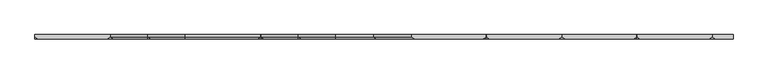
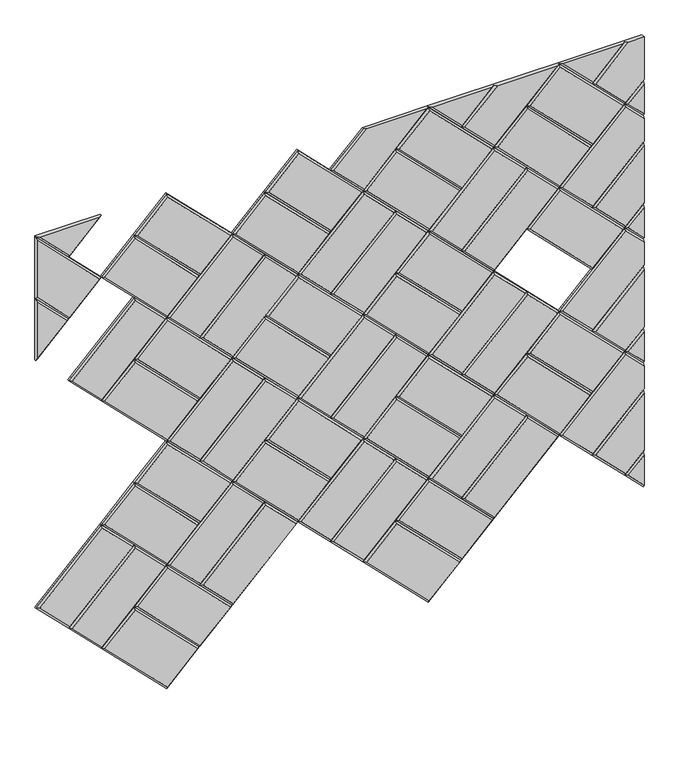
"""IFC4 building model written with IfcOpenShell, lengths in millimetres: proxy geometry, Wall_Wisteria 4.3dm."""

from ifc_helpers import new_model, si_unit, origin, place, context, project, spatial, faceted_brep, source, transform, mapped, element, save


def generic_models_cc67b6d5(model_context):
    return source(origin(), model_context, "Body", "Brep", [
        faceted_brep([(2685.2066058, 12.0, 2368.8913716), (2900.7603792, 12.0, 2584.3898885), (3008.5096376, 12.0, 2476.6130018), (2792.9558642, 12.0, 2261.1144849), (2685.2066058, 6.0, 2368.8913716), (2792.9558642, 6.0, 2261.1144849), (3008.5096376, 6.0, 2476.6130018), (2900.7603792, 6.0, 2584.3898885), (3000.0243563, 0.0, 2476.6140895), (2900.7592914, 0.0, 2575.9046072), (2693.6918871, 0.0, 2368.8902839), (2792.9569519, 0.0, 2269.5997662)], [[[0, 1, 2, 3]], [[4, 0, 3, 5]], [[5, 3, 2, 6]], [[6, 2, 1, 7]], [[7, 1, 0, 4]], [[8, 9, 10, 11]], [[4, 5, 11, 10]], [[5, 6, 8, 11]], [[6, 7, 9, 8]], [[7, 4, 10, 9]]]),
        faceted_brep([(2792.9558642, 12.0, 2261.1144849), (3008.5096376, 12.0, 2476.6130018), (3116.258896, 12.0, 2368.8361151), (2900.7051226, 12.0, 2153.3375982), (2792.9558642, 6.0, 2261.1144849), (2900.7051226, 6.0, 2153.3375982), (3116.258896, 6.0, 2368.8361151), (3008.5096376, 6.0, 2476.6130018), (3107.7736147, 0.0, 2368.8372028), (3008.5085499, 0.0, 2468.1277205), (2801.4411455, 0.0, 2261.1133972), (2900.7062104, 0.0, 2161.8228796)], [[[0, 1, 2, 3]], [[4, 0, 3, 5]], [[5, 3, 2, 6]], [[6, 2, 1, 7]], [[7, 1, 0, 4]], [[8, 9, 10, 11]], [[4, 5, 11, 10]], [[5, 6, 8, 11]], [[6, 7, 9, 8]], [[7, 4, 10, 9]]]),
        faceted_brep([(2792.928252, 12.0, 2045.5888806), (2577.4297351, 12.0, 2261.142654), (2685.2066218, 12.0, 2368.8919124), (2900.7051387, 12.0, 2153.338139), (2792.928252, 6.0, 2045.5888806), (2900.7051387, 6.0, 2153.338139), (2685.2066218, 6.0, 2368.8919124), (2577.4297351, 6.0, 2261.142654), (2685.2055341, 0.0, 2360.4066311), (2585.9150165, 0.0, 2261.1415663), (2792.9293398, 0.0, 2054.0741619), (2892.2198574, 0.0, 2153.3392268)], [[[0, 1, 2, 3]], [[4, 0, 3, 5]], [[5, 3, 2, 6]], [[6, 2, 1, 7]], [[7, 1, 0, 4]], [[8, 9, 10, 11]], [[4, 5, 11, 10]], [[5, 6, 8, 11]], [[6, 7, 9, 8]], [[7, 4, 10, 9]]]),
        faceted_brep([(2685.1513653, 12.0, 1937.8396222), (2469.6528485, 12.0, 2153.3933956), (2577.4297351, 12.0, 2261.142654), (2792.928252, 12.0, 2045.5888806), (2685.1513653, 6.0, 1937.8396222), (2792.928252, 6.0, 2045.5888806), (2577.4297351, 6.0, 2261.142654), (2469.6528485, 6.0, 2153.3933956), (2577.4286474, 0.0, 2252.6573727), (2478.1381298, 0.0, 2153.3923078), (2685.1524531, 0.0, 1946.3249035), (2784.4429707, 0.0, 2045.5899683)], [[[0, 1, 2, 3]], [[4, 0, 3, 5]], [[5, 3, 2, 6]], [[6, 2, 1, 7]], [[7, 1, 0, 4]], [[8, 9, 10, 11]], [[4, 5, 11, 10]], [[5, 6, 8, 11]], [[6, 7, 9, 8]], [[7, 4, 10, 9]]]),
        faceted_brep([(2361.90359, 12.0, 2261.1702822), (2577.4573634, 12.0, 2476.6687991), (2685.2066218, 12.0, 2368.8919124), (2469.6528485, 12.0, 2153.3933956), (2361.90359, 6.0, 2261.1702822), (2469.6528485, 6.0, 2153.3933956), (2685.2066218, 6.0, 2368.8919124), (2577.4573634, 6.0, 2476.6687991), (2676.7213405, 0.0, 2368.8930002), (2577.4562757, 0.0, 2468.1835178), (2370.3888713, 0.0, 2261.1691945), (2469.6539362, 0.0, 2161.8786769)], [[[0, 1, 2, 3]], [[4, 0, 3, 5]], [[5, 3, 2, 6]], [[6, 2, 1, 7]], [[7, 1, 0, 4]], [[8, 9, 10, 11]], [[4, 5, 11, 10]], [[5, 6, 8, 11]], [[6, 7, 9, 8]], [[7, 4, 10, 9]]]),
        faceted_brep([(2792.9835085, 12.0, 2476.6411709), (2577.4849917, 12.0, 2692.1949443), (2685.2618784, 12.0, 2799.9442027), (2900.7603952, 12.0, 2584.3904293), (2792.9835085, 6.0, 2476.6411709), (2900.7603952, 6.0, 2584.3904293), (2685.2618784, 6.0, 2799.9442027), (2577.4849917, 6.0, 2692.1949443), (2685.2607906, 0.0, 2791.4589214), (2585.970273, 0.0, 2692.1938565), (2792.9845963, 0.0, 2485.1264522), (2892.2751139, 0.0, 2584.391517)], [[[0, 1, 2, 3]], [[4, 0, 3, 5]], [[5, 3, 2, 6]], [[6, 2, 1, 7]], [[7, 1, 0, 4]], [[8, 9, 10, 11]], [[4, 5, 11, 10]], [[5, 6, 8, 11]], [[6, 7, 9, 8]], [[7, 4, 10, 9]]]),
        faceted_brep([(2685.2066218, 12.0, 2368.8919124), (2469.708105, 12.0, 2584.4456858), (2577.4849917, 12.0, 2692.1949443), (2792.9835085, 12.0, 2476.6411709), (2685.2066218, 6.0, 2368.8919124), (2792.9835085, 6.0, 2476.6411709), (2577.4849917, 6.0, 2692.1949443), (2469.708105, 6.0, 2584.4456858), (2577.4839039, 0.0, 2683.709663), (2478.1933863, 0.0, 2584.4445981), (2685.2077096, 0.0, 2377.3771937), (2784.4982272, 0.0, 2476.6422586)], [[[0, 1, 2, 3]], [[4, 0, 3, 5]], [[5, 3, 2, 6]], [[6, 2, 1, 7]], [[7, 1, 0, 4]], [[8, 9, 10, 11]], [[4, 5, 11, 10]], [[5, 6, 8, 11]], [[6, 7, 9, 8]], [[7, 4, 10, 9]]]),
        faceted_brep([(3547.3111702, 12.0, 2368.7803178), (3762.8649436, 12.0, 2584.2788347), (3870.6142021, 12.0, 2476.501948), (3655.0604287, 12.0, 2261.0034311), (3547.3111702, 6.0, 2368.7803178), (3655.0604287, 6.0, 2261.0034311), (3870.6142021, 6.0, 2476.501948), (3762.8649436, 6.0, 2584.2788347), (3862.1289208, 0.0, 2476.5030357), (3762.8638559, 0.0, 2575.7935534), (3555.7964515, 0.0, 2368.7792301), (3655.0615164, 0.0, 2269.4887124)], [[[0, 1, 2, 3]], [[4, 0, 3, 5]], [[5, 3, 2, 6]], [[6, 2, 1, 7]], [[7, 1, 0, 4]], [[8, 9, 10, 11]], [[4, 5, 11, 10]], [[5, 6, 8, 11]], [[6, 7, 9, 8]], [[7, 4, 10, 9]]]),
        faceted_brep([(3655.0604287, 12.0, 2261.0034311), (3870.6142021, 12.0, 2476.501948), (3978.3634605, 12.0, 2368.7250613), (3762.8096871, 12.0, 2153.2265444), (3655.0604287, 6.0, 2261.0034311), (3762.8096871, 6.0, 2153.2265444), (3978.3634605, 6.0, 2368.7250613), (3870.6142021, 6.0, 2476.501948), (3969.8781792, 0.0, 2368.726149), (3870.6131143, 0.0, 2468.0166667), (3663.54571, 0.0, 2261.0023434), (3762.8107748, 0.0, 2161.7118257)], [[[0, 1, 2, 3]], [[4, 0, 3, 5]], [[5, 3, 2, 6]], [[6, 2, 1, 7]], [[7, 1, 0, 4]], [[8, 9, 10, 11]], [[4, 5, 11, 10]], [[5, 6, 8, 11]], [[6, 7, 9, 8]], [[7, 4, 10, 9]]]),
        faceted_brep([(3655.0328165, 12.0, 2045.4778268), (3439.5342996, 12.0, 2261.0316002), (3547.3111863, 12.0, 2368.7808586), (3762.8097032, 12.0, 2153.2270852), (3655.0328165, 6.0, 2045.4778268), (3762.8097032, 6.0, 2153.2270852), (3547.3111863, 6.0, 2368.7808586), (3439.5342996, 6.0, 2261.0316002), (3547.3100986, 0.0, 2360.2955773), (3448.0195809, 0.0, 2261.0305124), (3655.0339042, 0.0, 2053.9631081), (3754.3244219, 0.0, 2153.2281729)], [[[0, 1, 2, 3]], [[4, 0, 3, 5]], [[5, 3, 2, 6]], [[6, 2, 1, 7]], [[7, 1, 0, 4]], [[8, 9, 10, 11]], [[4, 5, 11, 10]], [[5, 6, 8, 11]], [[6, 7, 9, 8]], [[7, 4, 10, 9]]]),
        faceted_brep([(3547.2559298, 12.0, 1937.7285683), (3331.7574129, 12.0, 2153.2823417), (3439.5342996, 12.0, 2261.0316002), (3655.0328165, 12.0, 2045.4778268), (3547.2559298, 6.0, 1937.7285683), (3655.0328165, 6.0, 2045.4778268), (3439.5342996, 6.0, 2261.0316002), (3331.7574129, 6.0, 2153.2823417), (3439.5332119, 0.0, 2252.5463189), (3340.2426942, 0.0, 2153.281254), (3547.2570175, 0.0, 1946.2138496), (3646.5475352, 0.0, 2045.4789145)], [[[0, 1, 2, 3]], [[4, 0, 3, 5]], [[5, 3, 2, 6]], [[6, 2, 1, 7]], [[7, 1, 0, 4]], [[8, 9, 10, 11]], [[4, 5, 11, 10]], [[5, 6, 8, 11]], [[6, 7, 9, 8]], [[7, 4, 10, 9]]]),
        faceted_brep([(3116.258896, 12.0, 2368.8361151), (3331.8126694, 12.0, 2584.334632), (3439.5619279, 12.0, 2476.5577453), (3224.0081545, 12.0, 2261.0592284), (3116.258896, 6.0, 2368.8361151), (3224.0081545, 6.0, 2261.0592284), (3439.5619279, 6.0, 2476.5577453), (3331.8126694, 6.0, 2584.334632), (3431.0766466, 0.0, 2476.558833), (3331.8115817, 0.0, 2575.8493507), (3124.7441773, 0.0, 2368.8350274), (3224.0092422, 0.0, 2269.5445097)], [[[0, 1, 2, 3]], [[4, 0, 3, 5]], [[5, 3, 2, 6]], [[6, 2, 1, 7]], [[7, 1, 0, 4]], [[8, 9, 10, 11]], [[4, 5, 11, 10]], [[5, 6, 8, 11]], [[6, 7, 9, 8]], [[7, 4, 10, 9]]]),
        faceted_brep([(3224.0081545, 12.0, 2261.0592284), (3439.5619279, 12.0, 2476.5577453), (3547.3111863, 12.0, 2368.7808586), (3331.7574129, 12.0, 2153.2823417), (3224.0081545, 6.0, 2261.0592284), (3331.7574129, 6.0, 2153.2823417), (3547.3111863, 6.0, 2368.7808586), (3439.5619279, 6.0, 2476.5577453), (3538.825905, 0.0, 2368.7819463), (3439.5608401, 0.0, 2468.072464), (3232.4934358, 0.0, 2261.0581407), (3331.7585006, 0.0, 2161.767623)], [[[0, 1, 2, 3]], [[4, 0, 3, 5]], [[5, 3, 2, 6]], [[6, 2, 1, 7]], [[7, 1, 0, 4]], [[8, 9, 10, 11]], [[4, 5, 11, 10]], [[5, 6, 8, 11]], [[6, 7, 9, 8]], [[7, 4, 10, 9]]]),
        faceted_brep([(3655.088073, 12.0, 2476.530117), (3439.5895561, 12.0, 2692.0838904), (3547.3664428, 12.0, 2799.8331489), (3762.8649597, 12.0, 2584.2793755), (3655.088073, 6.0, 2476.530117), (3762.8649597, 6.0, 2584.2793755), (3547.3664428, 6.0, 2799.8331489), (3439.5895561, 6.0, 2692.0838904), (3547.3653551, 0.0, 2791.3478676), (3448.0748374, 0.0, 2692.0828027), (3655.0891607, 0.0, 2485.0153983), (3754.3796784, 0.0, 2584.2804632)], [[[0, 1, 2, 3]], [[4, 0, 3, 5]], [[5, 3, 2, 6]], [[6, 2, 1, 7]], [[7, 1, 0, 4]], [[8, 9, 10, 11]], [[4, 5, 11, 10]], [[5, 6, 8, 11]], [[6, 7, 9, 8]], [[7, 4, 10, 9]]]),
        faceted_brep([(3547.3111863, 12.0, 2368.7808586), (3331.8126694, 12.0, 2584.334632), (3439.5895561, 12.0, 2692.0838904), (3655.088073, 12.0, 2476.530117), (3547.3111863, 6.0, 2368.7808586), (3655.088073, 6.0, 2476.530117), (3439.5895561, 6.0, 2692.0838904), (3331.8126694, 6.0, 2584.334632), (3439.5884684, 0.0, 2683.5986091), (3340.2979507, 0.0, 2584.3335443), (3547.312274, 0.0, 2377.2661399), (3646.6027917, 0.0, 2476.5312048)], [[[0, 1, 2, 3]], [[4, 0, 3, 5]], [[5, 3, 2, 6]], [[6, 2, 1, 7]], [[7, 1, 0, 4]], [[8, 9, 10, 11]], [[4, 5, 11, 10]], [[5, 6, 8, 11]], [[6, 7, 9, 8]], [[7, 4, 10, 9]]]),
        faceted_brep([(4254.2096042, 12.0, 2092.8081872), (4193.8619774, 12.0, 2153.1712879), (4254.2096042, 12.0, 2213.5034448), (4254.2096042, 6.0, 2213.5034448), (4193.8619774, 6.0, 2153.1712879), (4254.2096042, 6.0, 2092.8081872), (4254.2096042, 0.0, 2101.2945565), (4254.2096042, 0.0, 2205.0192509), (4202.3472587, 0.0, 2153.1702002)], [[[0, 1, 2]], [[3, 2, 1, 4]], [[0, 5, 4, 1]], [[6, 7, 8]], [[7, 3, 4, 8]], [[5, 6, 8, 4]], [[0, 2, 3, 7, 6, 5]]]),
        faceted_brep([(4254.2096042, 12.0, 2429.0019687), (4086.1127189, 12.0, 2260.9481746), (3978.3634605, 12.0, 2368.7250613), (4193.9172339, 12.0, 2584.2235782), (4254.2096042, 12.0, 2523.9157482), (3978.3634605, 6.0, 2368.7250613), (4086.1127189, 6.0, 2260.9481746), (4254.2096042, 6.0, 2429.0019687), (4254.2096042, 6.0, 2523.9157482), (4193.9172339, 6.0, 2584.2235782), (4254.2096042, 0.0, 2437.4861626), (4254.2096042, 0.0, 2515.4293789), (4193.9161462, 0.0, 2575.7382969), (3986.8487418, 0.0, 2368.7239736), (4086.1138067, 0.0, 2269.4334559)], [[[0, 1, 2, 3, 4]], [[5, 2, 1, 6]], [[0, 7, 6, 1]], [[8, 4, 3, 9]], [[9, 3, 2, 5]], [[10, 11, 12, 13, 14]], [[5, 6, 14, 13]], [[7, 10, 14, 6]], [[11, 8, 9, 12]], [[9, 5, 13, 12]], [[0, 4, 8, 11, 10, 7]]]),
        faceted_brep([(4254.2096042, 12.0, 2213.5034448), (4193.8619774, 12.0, 2153.1712879), (4086.1127189, 12.0, 2260.9481746), (4254.2096042, 12.0, 2429.0019687), (4086.1127189, 6.0, 2260.9481746), (4193.8619774, 6.0, 2153.1712879), (4254.2096042, 6.0, 2213.5034448), (4254.2096042, 6.0, 2429.0019687), (4254.2096042, 0.0, 2221.9876386), (4254.2096042, 0.0, 2420.5177749), (4094.5980002, 0.0, 2260.9470869), (4193.8630651, 0.0, 2161.6565692)], [[[0, 1, 2, 3]], [[4, 2, 1, 5]], [[0, 6, 5, 1]], [[7, 3, 2, 4]], [[8, 9, 10, 11]], [[4, 5, 11, 10]], [[6, 8, 11, 5]], [[9, 7, 4, 10]], [[0, 3, 7, 9, 8, 6]]]),
        faceted_brep([(4254.2096042, 12.0, 2523.9157482), (4193.9172339, 12.0, 2584.2235782), (4254.2096042, 12.0, 2644.5004927), (4254.2096042, 6.0, 2644.5004927), (4193.9172339, 6.0, 2584.2235782), (4254.2096042, 6.0, 2523.9157482), (4254.2096042, 0.0, 2532.4021175), (4254.2096042, 0.0, 2636.0162988), (4202.4025152, 0.0, 2584.2224904)], [[[0, 1, 2]], [[3, 2, 1, 4]], [[0, 5, 4, 1]], [[6, 7, 8]], [[7, 3, 4, 8]], [[5, 6, 8, 4]], [[0, 2, 3, 7, 6, 5]]]),
        faceted_brep([(3224.063411, 6.0, 2692.1115187), (3224.063411, 12.0, 2692.1115187), (3331.8126694, 12.0, 2584.334632), (3331.8126694, 6.0, 2584.334632), (3547.3664428, 12.0, 2799.8331489), (3547.3664428, 6.0, 2799.8331489), (3331.8137572, 0.0, 2592.8199133), (3232.5486923, 0.0, 2692.110431), (3538.8811615, 0.0, 2799.8342366), (3331.9795563, 12.0, 2800.0), (3547.1996345, 12.0, 2800.0), (3547.1996345, 6.0, 2800.0), (3331.9795563, 6.0, 2800.0), (3340.4659256, 0.0, 2800.0), (3538.7154406, 0.0, 2800.0)], [[[0, 1, 2, 3]], [[3, 2, 4, 5]], [[0, 3, 6, 7]], [[3, 5, 8, 6]], [[9, 10, 4, 2, 1]], [[11, 5, 4, 10]], [[9, 1, 0, 12]], [[13, 7, 6, 8, 14]], [[14, 8, 5, 11]], [[12, 0, 7, 13]], [[9, 12, 13, 14, 11, 10]]]),
        faceted_brep([(3224.0357988, 12.0, 2476.5859143), (3008.5372819, 12.0, 2692.1396877), (3116.3141686, 12.0, 2799.8889462), (3331.8126855, 12.0, 2584.3351728), (3224.0357988, 6.0, 2476.5859143), (3331.8126855, 6.0, 2584.3351728), (3116.3141686, 6.0, 2799.8889462), (3008.5372819, 6.0, 2692.1396877), (3116.3130809, 0.0, 2791.4036649), (3017.0225632, 0.0, 2692.1386), (3224.0368865, 0.0, 2485.0711957), (3323.3274042, 0.0, 2584.3362605)], [[[0, 1, 2, 3]], [[4, 0, 3, 5]], [[5, 3, 2, 6]], [[6, 2, 1, 7]], [[7, 1, 0, 4]], [[8, 9, 10, 11]], [[4, 5, 11, 10]], [[5, 6, 8, 11]], [[6, 7, 9, 8]], [[7, 4, 10, 9]]]),
        faceted_brep([(3116.2589121, 12.0, 2368.8366559), (2900.7603952, 12.0, 2584.3904293), (3008.5372819, 12.0, 2692.1396877), (3224.0357988, 12.0, 2476.5859143), (3116.2589121, 6.0, 2368.8366559), (3224.0357988, 6.0, 2476.5859143), (3008.5372819, 6.0, 2692.1396877), (2900.7603952, 6.0, 2584.3904293), (3008.5361942, 0.0, 2683.6544064), (2909.2456765, 0.0, 2584.3893416), (3116.2599998, 0.0, 2377.3219372), (3215.5505175, 0.0, 2476.5870021)], [[[0, 1, 2, 3]], [[4, 0, 3, 5]], [[5, 3, 2, 6]], [[6, 2, 1, 7]], [[7, 1, 0, 4]], [[8, 9, 10, 11]], [[4, 5, 11, 10]], [[5, 6, 8, 11]], [[6, 7, 9, 8]], [[7, 4, 10, 9]]]),
        faceted_brep([(3978.418717, 6.0, 2799.7773516), (3978.418717, 12.0, 2799.7773516), (4086.1679755, 12.0, 2692.0004649), (4086.1679755, 6.0, 2692.0004649), (4086.1690632, 0.0, 2700.4857462), (3986.9039983, 0.0, 2799.7762638), (3978.6414225, 12.0, 2800.0), (4194.195203, 12.0, 2800.0), (4194.195203, 6.0, 2800.0), (3978.6414225, 6.0, 2800.0), (3987.1277919, 0.0, 2800.0), (4185.7088337, 0.0, 2800.0)], [[[0, 1, 2, 3]], [[0, 3, 4, 5]], [[6, 7, 2, 1]], [[8, 3, 2, 7]], [[6, 1, 0, 9]], [[10, 5, 4, 11]], [[11, 4, 3, 8]], [[9, 0, 5, 10]], [[6, 9, 10, 11, 8, 7]]]),
        faceted_brep([(4254.2096042, 12.0, 2644.5004927), (4193.9172339, 12.0, 2584.2235782), (4086.1679755, 12.0, 2692.0004649), (4194.195203, 12.0, 2800.0), (4254.2096042, 12.0, 2800.0), (4086.1679755, 6.0, 2692.0004649), (4193.9172339, 6.0, 2584.2235782), (4254.2096042, 6.0, 2644.5004927), (4193.9183216, 0.0, 2592.7088595), (4094.6532568, 0.0, 2691.9993771), (4254.2096042, 0.0, 2652.9846865), (4202.6815723, 0.0, 2800.0), (4254.2096042, 0.0, 2800.0), (4194.195203, 6.0, 2800.0)], [[[0, 1, 2, 3, 4]], [[5, 2, 1, 6]], [[0, 7, 6, 1]], [[5, 6, 8, 9]], [[7, 10, 8, 6]], [[11, 12, 4, 3, 13]], [[3, 2, 5, 13]], [[11, 9, 8, 10, 12]], [[13, 5, 9, 11]], [[0, 4, 12, 10, 7]]]),
        faceted_brep([(4086.1403633, 12.0, 2476.4748605), (3870.6418464, 12.0, 2692.0286339), (3978.4187331, 12.0, 2799.7778924), (4193.91725, 12.0, 2584.224119), (4086.1403633, 6.0, 2476.4748605), (4193.91725, 6.0, 2584.224119), (3978.4187331, 6.0, 2799.7778924), (3870.6418464, 6.0, 2692.0286339), (3978.4176454, 0.0, 2791.2926111), (3879.1271277, 0.0, 2692.0275462), (4086.141451, 0.0, 2484.9601418), (4185.4319687, 0.0, 2584.2252067)], [[[0, 1, 2, 3]], [[4, 0, 3, 5]], [[5, 3, 2, 6]], [[6, 2, 1, 7]], [[7, 1, 0, 4]], [[8, 9, 10, 11]], [[4, 5, 11, 10]], [[5, 6, 8, 11]], [[6, 7, 9, 8]], [[7, 4, 10, 9]]]),
        faceted_brep([(3978.3634766, 12.0, 2368.7256021), (3762.8649597, 12.0, 2584.2793755), (3870.6418464, 12.0, 2692.0286339), (4086.1403633, 12.0, 2476.4748605), (3978.3634766, 6.0, 2368.7256021), (4086.1403633, 6.0, 2476.4748605), (3870.6418464, 6.0, 2692.0286339), (3762.8649597, 6.0, 2584.2793755), (3870.6407587, 0.0, 2683.5433526), (3771.350241, 0.0, 2584.2782878), (3978.3645643, 0.0, 2377.2108834), (4077.655082, 0.0, 2476.4759483)], [[[0, 1, 2, 3]], [[4, 0, 3, 5]], [[5, 3, 2, 6]], [[6, 2, 1, 7]], [[7, 1, 0, 4]], [[8, 9, 10, 11]], [[4, 5, 11, 10]], [[5, 6, 8, 11]], [[6, 7, 9, 8]], [[7, 4, 10, 9]]]),
        faceted_brep([(3547.3664428, 6.0, 2799.8331489), (3547.3664428, 12.0, 2799.8331489), (3655.1157013, 12.0, 2692.0562622), (3655.1157013, 6.0, 2692.0562622), (3655.116789, 0.0, 2700.5415435), (3555.8517241, 0.0, 2799.8320611), (3547.5333367, 12.0, 2800.0), (3763.0871172, 12.0, 2800.0), (3763.0871172, 6.0, 2800.0), (3547.5333367, 6.0, 2800.0), (3556.019706, 0.0, 2800.0), (3754.6007479, 0.0, 2800.0)], [[[0, 1, 2, 3]], [[0, 3, 4, 5]], [[6, 7, 2, 1]], [[8, 3, 2, 7]], [[6, 1, 0, 9]], [[10, 5, 4, 11]], [[11, 4, 3, 8]], [[9, 0, 5, 10]], [[6, 9, 10, 11, 8, 7]]]),
        faceted_brep([(3655.1157013, 6.0, 2692.0562622), (3655.1157013, 12.0, 2692.0562622), (3762.8649597, 12.0, 2584.2793755), (3762.8649597, 6.0, 2584.2793755), (3978.4187331, 12.0, 2799.7778924), (3978.4187331, 6.0, 2799.7778924), (3762.8660474, 0.0, 2592.7646568), (3663.6009826, 0.0, 2692.0551745), (3969.9334518, 0.0, 2799.7789801), (3763.0871172, 12.0, 2800.0), (3978.1966824, 12.0, 2800.0), (3978.1966824, 6.0, 2800.0), (3763.0871172, 6.0, 2800.0), (3771.5734865, 0.0, 2800.0), (3969.7124885, 0.0, 2800.0)], [[[0, 1, 2, 3]], [[3, 2, 4, 5]], [[0, 3, 6, 7]], [[3, 5, 8, 6]], [[9, 10, 4, 2, 1]], [[11, 5, 4, 10]], [[9, 1, 0, 12]], [[13, 7, 6, 8, 14]], [[14, 8, 5, 11]], [[12, 0, 7, 13]], [[9, 12, 13, 14, 11, 10]]]),
        faceted_brep([(2254.2090474, 6.0, 2800.0), (2254.2090474, 12.0, 2800.0), (2361.9588465, 12.0, 2692.2225725), (2361.9588465, 6.0, 2692.2225725), (2361.9599343, 0.0, 2700.7078538), (2262.6932465, 0.0, 2799.9999948), (2469.7639095, 12.0, 2800.0), (2469.7639095, 6.0, 2800.0), (2461.2775402, 0.0, 2800.0)], [[[0, 1, 2, 3]], [[0, 3, 4, 5]], [[1, 6, 2]], [[7, 3, 2, 6]], [[5, 4, 8]], [[8, 4, 3, 7]], [[1, 0, 5, 8, 7, 6]]]),
        faceted_brep([(2254.2096042, 12.0, 2800.0), (2469.708121, 12.0, 2584.4462266), (2361.9312343, 12.0, 2476.6969682), (2254.2096042, 12.0, 2584.4462195), (2361.9312343, 6.0, 2476.6969682), (2469.708121, 6.0, 2584.4462266), (2254.2096042, 6.0, 2800.0), (2254.2096042, 6.0, 2584.4462195), (2254.2096042, 0.0, 2791.5136362), (2254.2096042, 0.0, 2592.9325888), (2361.9323221, 0.0, 2485.1822495), (2461.2228397, 0.0, 2584.4473143)], [[[0, 1, 2, 3]], [[4, 2, 1, 5]], [[5, 1, 0, 6]], [[7, 3, 2, 4]], [[8, 9, 10, 11]], [[4, 5, 11, 10]], [[5, 6, 8, 11]], [[9, 7, 4, 10]], [[0, 3, 7, 9, 8, 6]]]),
        faceted_brep([(2254.2096042, 12.0, 2584.4462195), (2361.9312343, 12.0, 2476.6969682), (2254.2096042, 12.0, 2369.0029521), (2254.2096042, 6.0, 2369.0029521), (2361.9312343, 6.0, 2476.6969682), (2254.2096042, 6.0, 2584.4462195), (2254.2096042, 0.0, 2575.9598502), (2254.2096042, 0.0, 2377.4871459), (2353.445953, 0.0, 2476.6980559)], [[[0, 1, 2]], [[3, 2, 1, 4]], [[0, 5, 4, 1]], [[6, 7, 8]], [[7, 3, 4, 8]], [[5, 6, 8, 4]], [[0, 2, 3, 7, 6, 5]]]),
        faceted_brep([(2685.0960927, 12.0, 1506.7867911), (2900.6498661, 12.0, 1722.285308), (3008.3991246, 12.0, 1614.5084213), (2792.8453512, 12.0, 1399.0099044), (2685.0960927, 6.0, 1506.7867911), (2792.8453512, 6.0, 1399.0099044), (3008.3991246, 6.0, 1614.5084213), (2900.6498661, 6.0, 1722.285308), (2999.9138433, 0.0, 1614.509509), (2900.6487784, 0.0, 1713.8000267), (2693.581374, 0.0, 1506.7857034), (2792.8464389, 0.0, 1407.4951857)], [[[0, 1, 2, 3]], [[4, 0, 3, 5]], [[5, 3, 2, 6]], [[6, 2, 1, 7]], [[7, 1, 0, 4]], [[8, 9, 10, 11]], [[4, 5, 11, 10]], [[5, 6, 8, 11]], [[6, 7, 9, 8]], [[7, 4, 10, 9]]]),
        faceted_brep([(2792.8453512, 12.0, 1399.0099044), (3008.3991246, 12.0, 1614.5084213), (3116.148383, 12.0, 1506.7315346), (2900.5946096, 12.0, 1291.2330177), (2792.8453512, 6.0, 1399.0099044), (2900.5946096, 6.0, 1291.2330177), (3116.148383, 6.0, 1506.7315346), (3008.3991246, 6.0, 1614.5084213), (3107.6631017, 0.0, 1506.7326223), (3008.3980368, 0.0, 1606.02314), (2801.3306325, 0.0, 1399.0088167), (2900.5956973, 0.0, 1299.718299)], [[[0, 1, 2, 3]], [[4, 0, 3, 5]], [[5, 3, 2, 6]], [[6, 2, 1, 7]], [[7, 1, 0, 4]], [[8, 9, 10, 11]], [[4, 5, 11, 10]], [[5, 6, 8, 11]], [[6, 7, 9, 8]], [[7, 4, 10, 9]]]),
        faceted_brep([(2792.817739, 12.0, 1183.4843001), (2577.3192221, 12.0, 1399.0380734), (2685.0961088, 12.0, 1506.7873319), (2900.5946257, 12.0, 1291.2335585), (2792.817739, 6.0, 1183.4843001), (2900.5946257, 6.0, 1291.2335585), (2685.0961088, 6.0, 1506.7873319), (2577.3192221, 6.0, 1399.0380734), (2685.0950211, 0.0, 1498.3020506), (2585.8045034, 0.0, 1399.0369857), (2792.8188267, 0.0, 1191.9695814), (2892.1093444, 0.0, 1291.2346462)], [[[0, 1, 2, 3]], [[4, 0, 3, 5]], [[5, 3, 2, 6]], [[6, 2, 1, 7]], [[7, 1, 0, 4]], [[8, 9, 10, 11]], [[4, 5, 11, 10]], [[5, 6, 8, 11]], [[6, 7, 9, 8]], [[7, 4, 10, 9]]]),
        faceted_brep([(2685.0408523, 12.0, 1075.7350416), (2469.5423354, 12.0, 1291.288815), (2577.3192221, 12.0, 1399.0380734), (2792.817739, 12.0, 1183.4843001), (2685.0408523, 6.0, 1075.7350416), (2792.817739, 6.0, 1183.4843001), (2577.3192221, 6.0, 1399.0380734), (2469.5423354, 6.0, 1291.288815), (2577.3181344, 0.0, 1390.5527921), (2478.0276167, 0.0, 1291.2877273), (2685.04194, 0.0, 1084.2203229), (2784.3324577, 0.0, 1183.4853878)], [[[0, 1, 2, 3]], [[4, 0, 3, 5]], [[5, 3, 2, 6]], [[6, 2, 1, 7]], [[7, 1, 0, 4]], [[8, 9, 10, 11]], [[4, 5, 11, 10]], [[5, 6, 8, 11]], [[6, 7, 9, 8]], [[7, 4, 10, 9]]]),
        faceted_brep([(2254.2096042, 12.0, 1507.0083315), (2469.5975919, 12.0, 1722.3411053), (2577.3468504, 12.0, 1614.5642186), (2361.793077, 12.0, 1399.0657017), (2254.2096042, 12.0, 1506.6767603), (2254.2096042, 6.0, 1506.6767603), (2361.793077, 6.0, 1399.0657017), (2577.3468504, 6.0, 1614.5642186), (2469.5975919, 6.0, 1722.3411053), (2254.2096042, 6.0, 1507.0083315), (2568.8615691, 0.0, 1614.5653063), (2469.5965042, 0.0, 1713.855824), (2262.5290998, 0.0, 1506.8415007), (2361.7941647, 0.0, 1407.550983), (2254.2096042, 5.8827719, 1506.8425672)], [[[0, 1, 2, 3, 4]], [[5, 4, 3, 6]], [[6, 3, 2, 7]], [[7, 2, 1, 8]], [[0, 9, 8, 1]], [[10, 11, 12, 13]], [[14, 5, 6, 13, 12]], [[6, 7, 10, 13]], [[7, 8, 11, 10]], [[9, 14, 12, 11, 8]], [[0, 4, 5, 14, 9]]]),
        faceted_brep([(2361.793077, 12.0, 1399.0657017), (2577.3468504, 12.0, 1614.5642186), (2685.0961088, 12.0, 1506.7873319), (2469.5423354, 12.0, 1291.288815), (2361.793077, 6.0, 1399.0657017), (2469.5423354, 6.0, 1291.288815), (2685.0961088, 6.0, 1506.7873319), (2577.3468504, 6.0, 1614.5642186), (2676.6108275, 0.0, 1506.7884196), (2577.3457626, 0.0, 1606.0789373), (2370.2783583, 0.0, 1399.064614), (2469.5434231, 0.0, 1299.7740963)], [[[0, 1, 2, 3]], [[4, 0, 3, 5]], [[5, 3, 2, 6]], [[6, 2, 1, 7]], [[7, 1, 0, 4]], [[8, 9, 10, 11]], [[4, 5, 11, 10]], [[5, 6, 8, 11]], [[6, 7, 9, 8]], [[7, 4, 10, 9]]]),
        faceted_brep([(2792.8729955, 12.0, 1614.5365903), (2577.3744786, 12.0, 1830.0903637), (2685.1513653, 12.0, 1937.8396222), (2900.6498822, 12.0, 1722.2858488), (2792.8729955, 6.0, 1614.5365903), (2900.6498822, 6.0, 1722.2858488), (2685.1513653, 6.0, 1937.8396222), (2577.3744786, 6.0, 1830.0903637), (2685.1502776, 0.0, 1929.3543409), (2585.8597599, 0.0, 1830.089276), (2792.8740832, 0.0, 1623.0218716), (2892.1646009, 0.0, 1722.2869365)], [[[0, 1, 2, 3]], [[4, 0, 3, 5]], [[5, 3, 2, 6]], [[6, 2, 1, 7]], [[7, 1, 0, 4]], [[8, 9, 10, 11]], [[4, 5, 11, 10]], [[5, 6, 8, 11]], [[6, 7, 9, 8]], [[7, 4, 10, 9]]]),
        faceted_brep([(2685.0961088, 12.0, 1506.7873319), (2469.5975919, 12.0, 1722.3411053), (2577.3744786, 12.0, 1830.0903637), (2792.8729955, 12.0, 1614.5365903), (2685.0961088, 6.0, 1506.7873319), (2792.8729955, 6.0, 1614.5365903), (2577.3744786, 6.0, 1830.0903637), (2469.5975919, 6.0, 1722.3411053), (2577.3733909, 0.0, 1821.6050824), (2478.0828732, 0.0, 1722.3400176), (2685.0971965, 0.0, 1515.2726132), (2784.3877142, 0.0, 1614.5376781)], [[[0, 1, 2, 3]], [[4, 0, 3, 5]], [[5, 3, 2, 6]], [[6, 2, 1, 7]], [[7, 1, 0, 4]], [[8, 9, 10, 11]], [[4, 5, 11, 10]], [[5, 6, 8, 11]], [[6, 7, 9, 8]], [[7, 4, 10, 9]]]),
        faceted_brep([(3547.2006572, 12.0, 1506.6757373), (3762.7544306, 12.0, 1722.1742542), (3870.503689, 12.0, 1614.3973675), (3654.9499156, 12.0, 1398.8988506), (3547.2006572, 6.0, 1506.6757373), (3654.9499156, 6.0, 1398.8988506), (3870.503689, 6.0, 1614.3973675), (3762.7544306, 6.0, 1722.1742542), (3862.0184077, 0.0, 1614.3984552), (3762.7533429, 0.0, 1713.6889728), (3555.6859385, 0.0, 1506.6746496), (3654.9510034, 0.0, 1407.3841319)], [[[0, 1, 2, 3]], [[4, 0, 3, 5]], [[5, 3, 2, 6]], [[6, 2, 1, 7]], [[7, 1, 0, 4]], [[8, 9, 10, 11]], [[4, 5, 11, 10]], [[5, 6, 8, 11]], [[6, 7, 9, 8]], [[7, 4, 10, 9]]]),
        faceted_brep([(3654.9499156, 12.0, 1398.8988506), (3870.503689, 12.0, 1614.3973675), (3978.2529475, 12.0, 1506.6204808), (3762.6991741, 12.0, 1291.1219639), (3654.9499156, 6.0, 1398.8988506), (3762.6991741, 6.0, 1291.1219639), (3978.2529475, 6.0, 1506.6204808), (3870.503689, 6.0, 1614.3973675), (3969.7676662, 0.0, 1506.6215685), (3870.5026013, 0.0, 1605.9120862), (3663.4351969, 0.0, 1398.8977629), (3762.7002618, 0.0, 1299.6072452)], [[[0, 1, 2, 3]], [[4, 0, 3, 5]], [[5, 3, 2, 6]], [[6, 2, 1, 7]], [[7, 1, 0, 4]], [[8, 9, 10, 11]], [[4, 5, 11, 10]], [[5, 6, 8, 11]], [[6, 7, 9, 8]], [[7, 4, 10, 9]]]),
        faceted_brep([(3654.9223035, 12.0, 1183.3732462), (3439.4237866, 12.0, 1398.9270196), (3547.2006733, 12.0, 1506.6762781), (3762.6991902, 12.0, 1291.1225047), (3654.9223035, 6.0, 1183.3732462), (3762.6991902, 6.0, 1291.1225047), (3547.2006733, 6.0, 1506.6762781), (3439.4237866, 6.0, 1398.9270196), (3547.1995855, 0.0, 1498.1909968), (3447.9090679, 0.0, 1398.9259319), (3654.9233912, 0.0, 1191.8585275), (3754.2139088, 0.0, 1291.1235924)], [[[0, 1, 2, 3]], [[4, 0, 3, 5]], [[5, 3, 2, 6]], [[6, 2, 1, 7]], [[7, 1, 0, 4]], [[8, 9, 10, 11]], [[4, 5, 11, 10]], [[5, 6, 8, 11]], [[6, 7, 9, 8]], [[7, 4, 10, 9]]]),
        faceted_brep([(3547.1454168, 12.0, 1075.6239878), (3331.6468999, 12.0, 1291.1777612), (3439.4237866, 12.0, 1398.9270196), (3654.9223035, 12.0, 1183.3732462), (3547.1454168, 6.0, 1075.6239878), (3654.9223035, 6.0, 1183.3732462), (3439.4237866, 6.0, 1398.9270196), (3331.6468999, 6.0, 1291.1777612), (3439.4226989, 0.0, 1390.4417383), (3340.1321812, 0.0, 1291.1766735), (3547.1465045, 0.0, 1084.1092691), (3646.4370221, 0.0, 1183.374334)], [[[0, 1, 2, 3]], [[4, 0, 3, 5]], [[5, 3, 2, 6]], [[6, 2, 1, 7]], [[7, 1, 0, 4]], [[8, 9, 10, 11]], [[4, 5, 11, 10]], [[5, 6, 8, 11]], [[6, 7, 9, 8]], [[7, 4, 10, 9]]]),
        faceted_brep([(3116.148383, 12.0, 1506.7315346), (3331.7021564, 12.0, 1722.2300515), (3439.4514148, 12.0, 1614.4531648), (3223.8976414, 12.0, 1398.9546479), (3116.148383, 6.0, 1506.7315346), (3223.8976414, 6.0, 1398.9546479), (3439.4514148, 6.0, 1614.4531648), (3331.7021564, 6.0, 1722.2300515), (3430.9661335, 0.0, 1614.4542525), (3331.7010687, 0.0, 1713.7447702), (3124.6336643, 0.0, 1506.7304469), (3223.8987292, 0.0, 1407.4399292)], [[[0, 1, 2, 3]], [[4, 0, 3, 5]], [[5, 3, 2, 6]], [[6, 2, 1, 7]], [[7, 1, 0, 4]], [[8, 9, 10, 11]], [[4, 5, 11, 10]], [[5, 6, 8, 11]], [[6, 7, 9, 8]], [[7, 4, 10, 9]]]),
        faceted_brep([(3223.8976414, 12.0, 1398.9546479), (3439.4514148, 12.0, 1614.4531648), (3547.2006733, 12.0, 1506.6762781), (3331.6468999, 12.0, 1291.1777612), (3223.8976414, 6.0, 1398.9546479), (3331.6468999, 6.0, 1291.1777612), (3547.2006733, 6.0, 1506.6762781), (3439.4514148, 6.0, 1614.4531648), (3538.715392, 0.0, 1506.6773658), (3439.4503271, 0.0, 1605.9678835), (3232.3829227, 0.0, 1398.9535602), (3331.6479876, 0.0, 1299.6630425)], [[[0, 1, 2, 3]], [[4, 0, 3, 5]], [[5, 3, 2, 6]], [[6, 2, 1, 7]], [[7, 1, 0, 4]], [[8, 9, 10, 11]], [[4, 5, 11, 10]], [[5, 6, 8, 11]], [[6, 7, 9, 8]], [[7, 4, 10, 9]]]),
        faceted_brep([(3654.97756, 12.0, 1614.4255365), (3439.4790431, 12.0, 1829.9793099), (3547.2559298, 12.0, 1937.7285683), (3762.7544467, 12.0, 1722.1747949), (3654.97756, 6.0, 1614.4255365), (3762.7544467, 6.0, 1722.1747949), (3547.2559298, 6.0, 1937.7285683), (3439.4790431, 6.0, 1829.9793099), (3547.2548421, 0.0, 1929.243287), (3447.9643244, 0.0, 1829.9782222), (3654.9786477, 0.0, 1622.9108178), (3754.2691654, 0.0, 1722.1758827)], [[[0, 1, 2, 3]], [[4, 0, 3, 5]], [[5, 3, 2, 6]], [[6, 2, 1, 7]], [[7, 1, 0, 4]], [[8, 9, 10, 11]], [[4, 5, 11, 10]], [[5, 6, 8, 11]], [[6, 7, 9, 8]], [[7, 4, 10, 9]]]),
        faceted_brep([(3547.2006733, 12.0, 1506.6762781), (3331.7021564, 12.0, 1722.2300515), (3439.4790431, 12.0, 1829.9793099), (3654.97756, 12.0, 1614.4255365), (3547.2006733, 6.0, 1506.6762781), (3654.97756, 6.0, 1614.4255365), (3439.4790431, 6.0, 1829.9793099), (3331.7021564, 6.0, 1722.2300515), (3439.4779554, 0.0, 1821.4940286), (3340.1874377, 0.0, 1722.2289637), (3547.201761, 0.0, 1515.1615594), (3646.4922787, 0.0, 1614.4266242)], [[[0, 1, 2, 3]], [[4, 0, 3, 5]], [[5, 3, 2, 6]], [[6, 2, 1, 7]], [[7, 1, 0, 4]], [[8, 9, 10, 11]], [[4, 5, 11, 10]], [[5, 6, 8, 11]], [[6, 7, 9, 8]], [[7, 4, 10, 9]]]),
        faceted_brep([(4254.2096042, 12.0, 1230.5930653), (4193.7514643, 12.0, 1291.0667074), (4254.2096042, 12.0, 1351.5093489), (4254.2096042, 6.0, 1351.5093489), (4193.7514643, 6.0, 1291.0667074), (4254.2096042, 6.0, 1230.5930653), (4254.2096042, 0.0, 1239.0794346), (4254.2096042, 0.0, 1343.0251551), (4202.2367456, 0.0, 1291.0656196)], [[[0, 1, 2]], [[3, 2, 1, 4]], [[0, 5, 4, 1]], [[6, 7, 8]], [[7, 3, 4, 8]], [[5, 6, 8, 4]], [[0, 2, 3, 7, 6, 5]]]),
        faceted_brep([(4254.2096042, 12.0, 1567.0078729), (4086.0022059, 12.0, 1398.8435941), (3978.2529475, 12.0, 1506.6204808), (4193.8067209, 12.0, 1722.1189976), (4254.2096042, 12.0, 1661.7006263), (3978.2529475, 6.0, 1506.6204808), (4086.0022059, 6.0, 1398.8435941), (4254.2096042, 6.0, 1567.0078729), (4254.2096042, 6.0, 1661.7006263), (4193.8067209, 6.0, 1722.1189976), (4254.2096042, 0.0, 1575.4920668), (4254.2096042, 0.0, 1653.214257), (4193.8056331, 0.0, 1713.6337163), (3986.7382288, 0.0, 1506.619393), (4086.0032936, 0.0, 1407.3288754)], [[[0, 1, 2, 3, 4]], [[5, 2, 1, 6]], [[0, 7, 6, 1]], [[8, 4, 3, 9]], [[9, 3, 2, 5]], [[10, 11, 12, 13, 14]], [[5, 6, 14, 13]], [[7, 10, 14, 6]], [[11, 8, 9, 12]], [[9, 5, 13, 12]], [[0, 4, 8, 11, 10, 7]]]),
        faceted_brep([(4254.2096042, 12.0, 1351.5093489), (4193.7514643, 12.0, 1291.0667074), (4086.0022059, 12.0, 1398.8435941), (4254.2096042, 12.0, 1567.0078729), (4086.0022059, 6.0, 1398.8435941), (4193.7514643, 6.0, 1291.0667074), (4254.2096042, 6.0, 1351.5093489), (4254.2096042, 6.0, 1567.0078729), (4254.2096042, 0.0, 1359.9935428), (4254.2096042, 0.0, 1558.523679), (4094.4874872, 0.0, 1398.8425063), (4193.7525521, 0.0, 1299.5519887)], [[[0, 1, 2, 3]], [[4, 2, 1, 5]], [[0, 6, 5, 1]], [[7, 3, 2, 4]], [[8, 9, 10, 11]], [[4, 5, 11, 10]], [[6, 8, 11, 5]], [[9, 7, 4, 10]], [[0, 3, 7, 9, 8, 6]]]),
        faceted_brep([(4254.2096042, 12.0, 1661.7006263), (4193.8067209, 12.0, 1722.1189976), (4254.2096042, 12.0, 1782.5063969), (4254.2096042, 6.0, 1782.5063969), (4193.8067209, 6.0, 1722.1189976), (4254.2096042, 6.0, 1661.7006263), (4254.2096042, 0.0, 1670.1869956), (4254.2096042, 0.0, 1774.022203), (4202.2920022, 0.0, 1722.1179099)], [[[0, 1, 2]], [[3, 2, 1, 4]], [[0, 5, 4, 1]], [[6, 7, 8]], [[7, 3, 4, 8]], [[5, 6, 8, 4]], [[0, 2, 3, 7, 6, 5]]]),
        faceted_brep([(3116.2036395, 12.0, 1937.7838249), (3331.7574129, 12.0, 2153.2823417), (3439.5066714, 12.0, 2045.505455), (3223.952898, 12.0, 1830.0069382), (3116.2036395, 6.0, 1937.7838249), (3223.952898, 6.0, 1830.0069382), (3439.5066714, 6.0, 2045.505455), (3331.7574129, 6.0, 2153.2823417), (3431.0213901, 0.0, 2045.5065428), (3331.7563252, 0.0, 2144.7970604), (3124.6889208, 0.0, 1937.7827371), (3223.9539857, 0.0, 1838.4922195)], [[[0, 1, 2, 3]], [[4, 0, 3, 5]], [[5, 3, 2, 6]], [[6, 2, 1, 7]], [[7, 1, 0, 4]], [[8, 9, 10, 11]], [[4, 5, 11, 10]], [[5, 6, 8, 11]], [[6, 7, 9, 8]], [[7, 4, 10, 9]]]),
        faceted_brep([(3223.952898, 12.0, 1830.0069382), (3439.5066714, 12.0, 2045.505455), (3547.2559298, 12.0, 1937.7285683), (3331.7021564, 12.0, 1722.2300515), (3223.952898, 6.0, 1830.0069382), (3331.7021564, 6.0, 1722.2300515), (3547.2559298, 6.0, 1937.7285683), (3439.5066714, 6.0, 2045.505455), (3538.7706485, 0.0, 1937.7296561), (3439.5055836, 0.0, 2037.0201737), (3232.4381793, 0.0, 1830.0058504), (3331.7032441, 0.0, 1730.7153328)], [[[0, 1, 2, 3]], [[4, 0, 3, 5]], [[5, 3, 2, 6]], [[6, 2, 1, 7]], [[7, 1, 0, 4]], [[8, 9, 10, 11]], [[4, 5, 11, 10]], [[5, 6, 8, 11]], [[6, 7, 9, 8]], [[7, 4, 10, 9]]]),
        faceted_brep([(3223.9252858, 12.0, 1614.4813338), (3008.4267689, 12.0, 1830.0351072), (3116.2036556, 12.0, 1937.7843656), (3331.7021725, 12.0, 1722.2305922), (3223.9252858, 6.0, 1614.4813338), (3331.7021725, 6.0, 1722.2305922), (3116.2036556, 6.0, 1937.7843656), (3008.4267689, 6.0, 1830.0351072), (3116.2025679, 0.0, 1929.2990843), (3016.9120502, 0.0, 1830.0340195), (3223.9263735, 0.0, 1622.9666151), (3323.2168912, 0.0, 1722.23168)], [[[0, 1, 2, 3]], [[4, 0, 3, 5]], [[5, 3, 2, 6]], [[6, 2, 1, 7]], [[7, 1, 0, 4]], [[8, 9, 10, 11]], [[4, 5, 11, 10]], [[5, 6, 8, 11]], [[6, 7, 9, 8]], [[7, 4, 10, 9]]]),
        faceted_brep([(3116.1483991, 12.0, 1506.7320754), (2900.6498822, 12.0, 1722.2858488), (3008.4267689, 12.0, 1830.0351072), (3223.9252858, 12.0, 1614.4813338), (3116.1483991, 6.0, 1506.7320754), (3223.9252858, 6.0, 1614.4813338), (3008.4267689, 6.0, 1830.0351072), (2900.6498822, 6.0, 1722.2858488), (3008.4256812, 0.0, 1821.5498259), (2909.1351635, 0.0, 1722.284761), (3116.1494868, 0.0, 1515.2173567), (3215.4400045, 0.0, 1614.4824215)], [[[0, 1, 2, 3]], [[4, 0, 3, 5]], [[5, 3, 2, 6]], [[6, 2, 1, 7]], [[7, 1, 0, 4]], [[8, 9, 10, 11]], [[4, 5, 11, 10]], [[5, 6, 8, 11]], [[6, 7, 9, 8]], [[7, 4, 10, 9]]]),
        faceted_brep([(2685.1513653, 12.0, 1937.8396222), (2900.7051387, 12.0, 2153.338139), (3008.4543972, 12.0, 2045.5612523), (2792.9006238, 12.0, 1830.0627355), (2685.1513653, 6.0, 1937.8396222), (2792.9006238, 6.0, 1830.0627355), (3008.4543972, 6.0, 2045.5612523), (2900.7051387, 6.0, 2153.338139), (2999.9691159, 0.0, 2045.5623401), (2900.704051, 0.0, 2144.8528577), (2693.6366466, 0.0, 1937.8385344), (2792.9017115, 0.0, 1838.5480168)], [[[0, 1, 2, 3]], [[4, 0, 3, 5]], [[5, 3, 2, 6]], [[6, 2, 1, 7]], [[7, 1, 0, 4]], [[8, 9, 10, 11]], [[4, 5, 11, 10]], [[5, 6, 8, 11]], [[6, 7, 9, 8]], [[7, 4, 10, 9]]]),
        faceted_brep([(2792.9006238, 12.0, 1830.0627355), (3008.4543972, 12.0, 2045.5612523), (3116.2036556, 12.0, 1937.7843656), (2900.6498822, 12.0, 1722.2858488), (2792.9006238, 6.0, 1830.0627355), (2900.6498822, 6.0, 1722.2858488), (3116.2036556, 6.0, 1937.7843656), (3008.4543972, 6.0, 2045.5612523), (3107.7183743, 0.0, 1937.7854534), (3008.4533094, 0.0, 2037.075971), (2801.3859051, 0.0, 1830.0616477), (2900.6509699, 0.0, 1730.7711301)], [[[0, 1, 2, 3]], [[4, 0, 3, 5]], [[5, 3, 2, 6]], [[6, 2, 1, 7]], [[7, 1, 0, 4]], [[8, 9, 10, 11]], [[4, 5, 11, 10]], [[5, 6, 8, 11]], [[6, 7, 9, 8]], [[7, 4, 10, 9]]]),
        faceted_brep([(3223.9805423, 12.0, 2045.5336241), (3008.4820254, 12.0, 2261.0873975), (3116.2589121, 12.0, 2368.8366559), (3331.757429, 12.0, 2153.2828825), (3223.9805423, 6.0, 2045.5336241), (3331.757429, 6.0, 2153.2828825), (3116.2589121, 6.0, 2368.8366559), (3008.4820254, 6.0, 2261.0873975), (3116.2578244, 0.0, 2360.3513746), (3016.9673067, 0.0, 2261.0863097), (3223.98163, 0.0, 2054.0189054), (3323.2721477, 0.0, 2153.2839702)], [[[0, 1, 2, 3]], [[4, 0, 3, 5]], [[5, 3, 2, 6]], [[6, 2, 1, 7]], [[7, 1, 0, 4]], [[8, 9, 10, 11]], [[4, 5, 11, 10]], [[5, 6, 8, 11]], [[6, 7, 9, 8]], [[7, 4, 10, 9]]]),
        faceted_brep([(3116.2036556, 12.0, 1937.7843656), (2900.7051387, 12.0, 2153.338139), (3008.4820254, 12.0, 2261.0873975), (3223.9805423, 12.0, 2045.5336241), (3116.2036556, 6.0, 1937.7843656), (3223.9805423, 6.0, 2045.5336241), (3008.4820254, 6.0, 2261.0873975), (2900.7051387, 6.0, 2153.338139), (3008.4809377, 0.0, 2252.6021162), (2909.19042, 0.0, 2153.3370513), (3116.2047433, 0.0, 1946.2696469), (3215.495261, 0.0, 2045.5347118)], [[[0, 1, 2, 3]], [[4, 0, 3, 5]], [[5, 3, 2, 6]], [[6, 2, 1, 7]], [[7, 1, 0, 4]], [[8, 9, 10, 11]], [[4, 5, 11, 10]], [[5, 6, 8, 11]], [[6, 7, 9, 8]], [[7, 4, 10, 9]]]),
        faceted_brep([(4254.2096042, 12.0, 1998.0049208), (4086.0574624, 12.0, 1829.8958843), (3978.308204, 12.0, 1937.672771), (4193.8619774, 12.0, 2153.1712879), (4254.2096042, 12.0, 2092.8081872), (3978.308204, 6.0, 1937.672771), (4086.0574624, 6.0, 1829.8958843), (4254.2096042, 6.0, 1998.0049208), (4254.2096042, 6.0, 2092.8081872), (4193.8619774, 6.0, 2153.1712879), (4254.2096042, 0.0, 2006.4891147), (4254.2096042, 0.0, 2084.3218179), (4193.8608897, 0.0, 2144.6860066), (3986.7934853, 0.0, 1937.6716833), (4086.0585502, 0.0, 1838.3811656)], [[[0, 1, 2, 3, 4]], [[5, 2, 1, 6]], [[0, 7, 6, 1]], [[8, 4, 3, 9]], [[9, 3, 2, 5]], [[10, 11, 12, 13, 14]], [[5, 6, 14, 13]], [[7, 10, 14, 6]], [[11, 8, 9, 12]], [[9, 5, 13, 12]], [[0, 4, 8, 11, 10, 7]]]),
        faceted_brep([(4254.2096042, 12.0, 1782.5063969), (4193.8067209, 12.0, 1722.1189976), (4086.0574624, 12.0, 1829.8958843), (4254.2096042, 12.0, 1998.0049208), (4086.0574624, 6.0, 1829.8958843), (4193.8067209, 6.0, 1722.1189976), (4254.2096042, 6.0, 1782.5063969), (4254.2096042, 6.0, 1998.0049208), (4254.2096042, 0.0, 1790.9905907), (4254.2096042, 0.0, 1989.520727), (4094.5427437, 0.0, 1829.8947966), (4193.8078086, 0.0, 1730.6042789)], [[[0, 1, 2, 3]], [[4, 2, 1, 5]], [[0, 6, 5, 1]], [[7, 3, 2, 4]], [[8, 9, 10, 11]], [[4, 5, 11, 10]], [[6, 8, 11, 5]], [[9, 7, 4, 10]], [[0, 3, 7, 9, 8, 6]]]),
        faceted_brep([(4086.0298502, 12.0, 1614.37028), (3870.5313334, 12.0, 1829.9240534), (3978.3082201, 12.0, 1937.6733118), (4193.8067369, 12.0, 1722.1195384), (4086.0298502, 6.0, 1614.37028), (4193.8067369, 6.0, 1722.1195384), (3978.3082201, 6.0, 1937.6733118), (3870.5313334, 6.0, 1829.9240534), (3978.3071323, 0.0, 1929.1880305), (3879.0166147, 0.0, 1829.9229657), (4086.030938, 0.0, 1622.8555613), (4185.3214556, 0.0, 1722.1206262)], [[[0, 1, 2, 3]], [[4, 0, 3, 5]], [[5, 3, 2, 6]], [[6, 2, 1, 7]], [[7, 1, 0, 4]], [[8, 9, 10, 11]], [[4, 5, 11, 10]], [[5, 6, 8, 11]], [[6, 7, 9, 8]], [[7, 4, 10, 9]]]),
        faceted_brep([(3978.2529635, 12.0, 1506.6210215), (3762.7544467, 12.0, 1722.1747949), (3870.5313334, 12.0, 1829.9240534), (4086.0298502, 12.0, 1614.37028), (3978.2529635, 6.0, 1506.6210215), (4086.0298502, 6.0, 1614.37028), (3870.5313334, 6.0, 1829.9240534), (3762.7544467, 6.0, 1722.1747949), (3870.5302456, 0.0, 1821.4387721), (3771.239728, 0.0, 1722.1737072), (3978.2540513, 0.0, 1515.1063029), (4077.5445689, 0.0, 1614.3713677)], [[[0, 1, 2, 3]], [[4, 0, 3, 5]], [[5, 3, 2, 6]], [[6, 2, 1, 7]], [[7, 1, 0, 4]], [[8, 9, 10, 11]], [[4, 5, 11, 10]], [[5, 6, 8, 11]], [[6, 7, 9, 8]], [[7, 4, 10, 9]]]),
        faceted_brep([(3547.2559298, 12.0, 1937.7285683), (3762.8097032, 12.0, 2153.2270852), (3870.5589616, 12.0, 2045.4501985), (3655.0051882, 12.0, 1829.9516816), (3547.2559298, 6.0, 1937.7285683), (3655.0051882, 6.0, 1829.9516816), (3870.5589616, 6.0, 2045.4501985), (3762.8097032, 6.0, 2153.2270852), (3862.0736803, 0.0, 2045.4512862), (3762.8086155, 0.0, 2144.7418039), (3555.7412111, 0.0, 1937.7274806), (3655.006276, 0.0, 1838.4369629)], [[[0, 1, 2, 3]], [[4, 0, 3, 5]], [[5, 3, 2, 6]], [[6, 2, 1, 7]], [[7, 1, 0, 4]], [[8, 9, 10, 11]], [[4, 5, 11, 10]], [[5, 6, 8, 11]], [[6, 7, 9, 8]], [[7, 4, 10, 9]]]),
        faceted_brep([(3655.0051882, 12.0, 1829.9516816), (3870.5589616, 12.0, 2045.4501985), (3978.3082201, 12.0, 1937.6733118), (3762.7544467, 12.0, 1722.1747949), (3655.0051882, 6.0, 1829.9516816), (3762.7544467, 6.0, 1722.1747949), (3978.3082201, 6.0, 1937.6733118), (3870.5589616, 6.0, 2045.4501985), (3969.8229388, 0.0, 1937.6743995), (3870.5578739, 0.0, 2036.9649172), (3663.4904695, 0.0, 1829.9505939), (3762.7555344, 0.0, 1730.6600762)], [[[0, 1, 2, 3]], [[4, 0, 3, 5]], [[5, 3, 2, 6]], [[6, 2, 1, 7]], [[7, 1, 0, 4]], [[8, 9, 10, 11]], [[4, 5, 11, 10]], [[5, 6, 8, 11]], [[6, 7, 9, 8]], [[7, 4, 10, 9]]]),
        faceted_brep([(4086.0851068, 12.0, 2045.4225703), (3870.5865899, 12.0, 2260.9763436), (3978.3634766, 12.0, 2368.7256021), (4193.8619935, 12.0, 2153.1718287), (4086.0851068, 6.0, 2045.4225703), (4193.8619935, 6.0, 2153.1718287), (3978.3634766, 6.0, 2368.7256021), (3870.5865899, 6.0, 2260.9763436), (3978.3623889, 0.0, 2360.2403208), (3879.0718712, 0.0, 2260.9752559), (4086.0861945, 0.0, 2053.9078516), (4185.3767122, 0.0, 2153.1729164)], [[[0, 1, 2, 3]], [[4, 0, 3, 5]], [[5, 3, 2, 6]], [[6, 2, 1, 7]], [[7, 1, 0, 4]], [[8, 9, 10, 11]], [[4, 5, 11, 10]], [[5, 6, 8, 11]], [[6, 7, 9, 8]], [[7, 4, 10, 9]]]),
    ])


if __name__ == "__main__":
    model = new_model("IFC4")
    model_context = context("Model", 3, world=origin())
    ifc_project = project(units=[si_unit("LENGTHUNIT", "METRE", prefix="MILLI")], contexts=[model_context])
    site = spatial("IfcSite", under=ifc_project)
    building = spatial("IfcBuilding", under=site)
    placement = place(None, origin())
    generic_models_shape = generic_models_cc67b6d5(model_context)
    element("IfcBuildingElementProxy", 1, Name="Wall_Wisteria 4.3dm", ObjectType="Wall_Wisteria 4.3dm", at=placement, inside=building, context=model_context, shape_type="MappedRepresentation", body=[
        mapped(generic_models_shape, transform((0.0, 0.0, 0.0), x_axis=(1.0, 0.0, 0.0), y_axis=(0.0, 1.0, 0.0), z_axis=(0.0, 0.0, 1.0))),
    ])
    save(model, "model.ifc")
